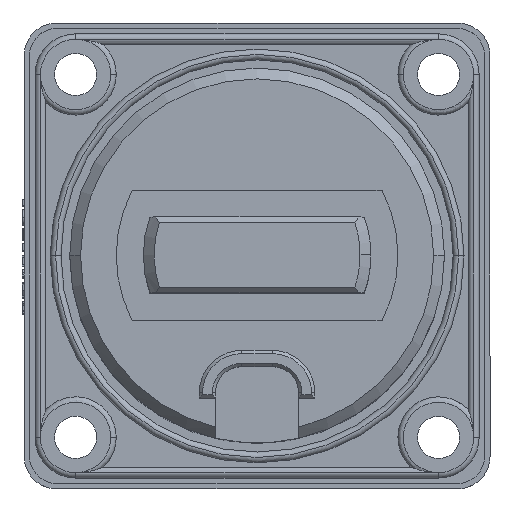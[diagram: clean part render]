
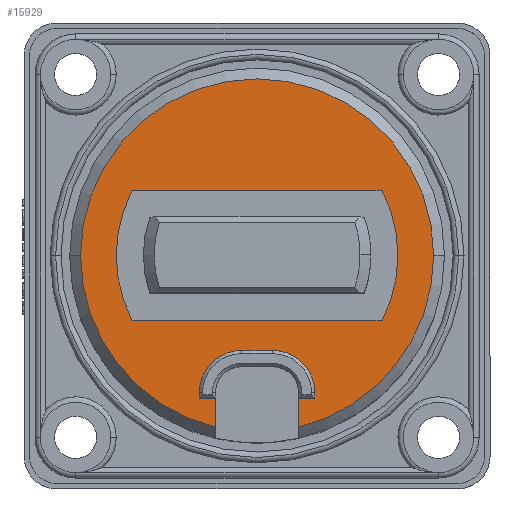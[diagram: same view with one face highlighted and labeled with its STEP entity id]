
A CAD part, top view. The second image highlights one B-rep face of the part: STEP entity #15929.
In plain terms, the highlighted planar face has unit normal (0, 0, 1).
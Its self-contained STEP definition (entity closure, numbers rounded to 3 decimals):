
#74 = ORIENTED_EDGE ( 'NONE', *, *, #11840, .F. ) ;
#340 = DIRECTION ( 'NONE',  ( 0., 0., -1. ) ) ;
#453 = VERTEX_POINT ( 'NONE', #14281 ) ;
#546 = LINE ( 'NONE', #17206, #21306 ) ;
#712 = DIRECTION ( 'NONE',  ( 0., 0., 1. ) ) ;
#738 = CARTESIAN_POINT ( 'NONE',  ( 5.329, -13.166, 27.461 ) ) ;
#793 = DIRECTION ( 'NONE',  ( -1., 0., 0. ) ) ;
#998 = VECTOR ( 'NONE', #22089, 1000. ) ;
#1167 = DIRECTION ( 'NONE',  ( 1., 0., 0. ) ) ;
#1493 = EDGE_CURVE ( 'NONE', #13582, #2811, #10826, .T. ) ;
#1884 = VECTOR ( 'NONE', #7913, 1000. ) ;
#1892 = AXIS2_PLACEMENT_3D ( 'NONE', #10469, #24474, #12488 ) ;
#2310 = AXIS2_PLACEMENT_3D ( 'NONE', #24066, #12051, #26060 ) ;
#2603 = VERTEX_POINT ( 'NONE', #8724 ) ;
#2811 = VERTEX_POINT ( 'NONE', #3848 ) ;
#2825 = VECTOR ( 'NONE', #1167, 1000. ) ;
#2834 = EDGE_CURVE ( 'NONE', #10999, #6312, #16932, .T. ) ;
#2994 = VERTEX_POINT ( 'NONE', #8370 ) ;
#3024 = LINE ( 'NONE', #9141, #18449 ) ;
#3214 = VERTEX_POINT ( 'NONE', #19374 ) ;
#3223 = DIRECTION ( 'NONE',  ( 0., 1., 0. ) ) ;
#3575 = VERTEX_POINT ( 'NONE', #16844 ) ;
#3848 = CARTESIAN_POINT ( 'NONE',  ( 16.3, 0., 27.461 ) ) ;
#4114 = LINE ( 'NONE', #4615, #19479 ) ;
#4615 = CARTESIAN_POINT ( 'NONE',  ( 3.829, -12.666, 27.461 ) ) ;
#4915 = CARTESIAN_POINT ( 'NONE',  ( 3.829, -13.166, 27.461 ) ) ;
#5038 = CARTESIAN_POINT ( 'NONE',  ( 13., 0., 27.461 ) ) ;
#5106 = ORIENTED_EDGE ( 'NONE', *, *, #25606, .F. ) ;
#5317 = CARTESIAN_POINT ( 'NONE',  ( 0., 0., 27.461 ) ) ;
#5332 = DIRECTION ( 'NONE',  ( 0., 0., 1. ) ) ;
#5692 = ORIENTED_EDGE ( 'NONE', *, *, #24542, .F. ) ;
#5876 = CARTESIAN_POINT ( 'NONE',  ( -5.329, -13.166, 27.461 ) ) ;
#5974 = CIRCLE ( 'NONE', #8059, 13. ) ;
#5992 = EDGE_CURVE ( 'NONE', #18427, #10497, #17740, .T. ) ;
#6111 = VECTOR ( 'NONE', #19930, 1000. ) ;
#6312 = VERTEX_POINT ( 'NONE', #5876 ) ;
#6395 = LINE ( 'NONE', #10094, #998 ) ;
#6505 = AXIS2_PLACEMENT_3D ( 'NONE', #24870, #12874, #793 ) ;
#6629 = DIRECTION ( 'NONE',  ( 0., 1., 0. ) ) ;
#6754 = ORIENTED_EDGE ( 'NONE', *, *, #15415, .F. ) ;
#6848 = ORIENTED_EDGE ( 'NONE', *, *, #18255, .F. ) ;
#6881 = CARTESIAN_POINT ( 'NONE',  ( -11.533, -6., 27.461 ) ) ;
#6883 = EDGE_CURVE ( 'NONE', #6312, #453, #8210, .T. ) ;
#7270 = LINE ( 'NONE', #19913, #1884 ) ;
#7359 = DIRECTION ( 'NONE',  ( -1., 0., 0. ) ) ;
#7497 = ORIENTED_EDGE ( 'NONE', *, *, #14616, .F. ) ;
#7565 = VERTEX_POINT ( 'NONE', #15203 ) ;
#7884 = FACE_OUTER_BOUND ( 'NONE', #22217, .T. ) ;
#7913 = DIRECTION ( 'NONE',  ( -1., 0., 0. ) ) ;
#7914 = AXIS2_PLACEMENT_3D ( 'NONE', #12795, #712, #14775 ) ;
#8038 = EDGE_CURVE ( 'NONE', #453, #15716, #3024, .T. ) ;
#8059 = AXIS2_PLACEMENT_3D ( 'NONE', #17363, #5332, #19366 ) ;
#8105 = CARTESIAN_POINT ( 'NONE',  ( -3.829, -15.844, 27.461 ) ) ;
#8210 = LINE ( 'NONE', #23156, #2825 ) ;
#8370 = CARTESIAN_POINT ( 'NONE',  ( -1.429, -8.766, 27.461 ) ) ;
#8610 = EDGE_CURVE ( 'NONE', #3575, #3214, #16791, .T. ) ;
#8621 = CARTESIAN_POINT ( 'NONE',  ( 0., 0., 27.461 ) ) ;
#8724 = CARTESIAN_POINT ( 'NONE',  ( 11.533, -6., 27.461 ) ) ;
#8867 = CARTESIAN_POINT ( 'NONE',  ( -11.533, -6., 27.461 ) ) ;
#9141 = CARTESIAN_POINT ( 'NONE',  ( -3.829, -12.666, 27.461 ) ) ;
#9152 = ORIENTED_EDGE ( 'NONE', *, *, #12416, .T. ) ;
#9227 = EDGE_CURVE ( 'NONE', #13582, #25514, #4114, .T. ) ;
#9719 = CARTESIAN_POINT ( 'NONE',  ( -1.429, -12.666, 27.461 ) ) ;
#9925 = ORIENTED_EDGE ( 'NONE', *, *, #8610, .F. ) ;
#9981 = EDGE_CURVE ( 'NONE', #25514, #11772, #546, .T. ) ;
#10094 = CARTESIAN_POINT ( 'NONE',  ( -11.533, 6., 27.461 ) ) ;
#10469 = CARTESIAN_POINT ( 'NONE',  ( 0., 0., 27.461 ) ) ;
#10497 = VERTEX_POINT ( 'NONE', #16850 ) ;
#10606 = ORIENTED_EDGE ( 'NONE', *, *, #1493, .T. ) ;
#10647 = DIRECTION ( 'NONE',  ( 1., 0., 0. ) ) ;
#10748 = LINE ( 'NONE', #15279, #15419 ) ;
#10762 = VECTOR ( 'NONE', #12821, 1000. ) ;
#10826 = CIRCLE ( 'NONE', #20851, 16.3 ) ;
#10999 = VERTEX_POINT ( 'NONE', #17164 ) ;
#11191 = VERTEX_POINT ( 'NONE', #6881 ) ;
#11198 = CARTESIAN_POINT ( 'NONE',  ( -16.3, 0., 27.461 ) ) ;
#11729 = DIRECTION ( 'NONE',  ( 1., 0., 0. ) ) ;
#11772 = VERTEX_POINT ( 'NONE', #738 ) ;
#11840 = EDGE_CURVE ( 'NONE', #11191, #2603, #22047, .T. ) ;
#12051 = DIRECTION ( 'NONE',  ( 0., 0., 1. ) ) ;
#12416 = EDGE_CURVE ( 'NONE', #23759, #15716, #18163, .T. ) ;
#12420 = CARTESIAN_POINT ( 'NONE',  ( 0., 7.45, 27.461 ) ) ;
#12488 = DIRECTION ( 'NONE',  ( 1., 0., 0. ) ) ;
#12505 = DIRECTION ( 'NONE',  ( 1., 0., 0. ) ) ;
#12795 = CARTESIAN_POINT ( 'NONE',  ( 1.429, -12.666, 27.461 ) ) ;
#12821 = DIRECTION ( 'NONE',  ( 1., 0., 0. ) ) ;
#12859 = AXIS2_PLACEMENT_3D ( 'NONE', #8621, #22634, #10647 ) ;
#12874 = DIRECTION ( 'NONE',  ( 0., 0., 1. ) ) ;
#12930 = ORIENTED_EDGE ( 'NONE', *, *, #16191, .T. ) ;
#12992 = ORIENTED_EDGE ( 'NONE', *, *, #9227, .F. ) ;
#13214 = FACE_BOUND ( 'NONE', #22481, .T. ) ;
#13582 = VERTEX_POINT ( 'NONE', #25902 ) ;
#13851 = CARTESIAN_POINT ( 'NONE',  ( -5.329, -12.666, 27.461 ) ) ;
#13913 = CIRCLE ( 'NONE', #12859, 13. ) ;
#14281 = CARTESIAN_POINT ( 'NONE',  ( -3.829, -13.166, 27.461 ) ) ;
#14415 = DIRECTION ( 'NONE',  ( -1., 0., 0. ) ) ;
#14616 = EDGE_CURVE ( 'NONE', #3214, #2994, #7270, .T. ) ;
#14775 = DIRECTION ( 'NONE',  ( 1., 0., 0. ) ) ;
#14969 = ORIENTED_EDGE ( 'NONE', *, *, #9981, .F. ) ;
#15203 = CARTESIAN_POINT ( 'NONE',  ( -11.533, 6., 27.461 ) ) ;
#15245 = ORIENTED_EDGE ( 'NONE', *, *, #8038, .F. ) ;
#15279 = CARTESIAN_POINT ( 'NONE',  ( 5.329, -13.166, 27.461 ) ) ;
#15415 = EDGE_CURVE ( 'NONE', #11772, #3575, #10748, .T. ) ;
#15419 = VECTOR ( 'NONE', #3223, 1000. ) ;
#15716 = VERTEX_POINT ( 'NONE', #8105 ) ;
#15929 = ADVANCED_FACE ( 'NONE', ( #13214, #7884 ), #16339, .F. ) ;
#16191 = EDGE_CURVE ( 'NONE', #2811, #23759, #17249, .T. ) ;
#16339 = PLANE ( 'NONE',  #23708 ) ;
#16791 = CIRCLE ( 'NONE', #7914, 3.9 ) ;
#16844 = CARTESIAN_POINT ( 'NONE',  ( 5.329, -12.666, 27.461 ) ) ;
#16850 = CARTESIAN_POINT ( 'NONE',  ( 11.533, 6., 27.461 ) ) ;
#16932 = LINE ( 'NONE', #13851, #6111 ) ;
#17164 = CARTESIAN_POINT ( 'NONE',  ( -5.329, -12.666, 27.461 ) ) ;
#17206 = CARTESIAN_POINT ( 'NONE',  ( 3.829, -13.166, 27.461 ) ) ;
#17249 = CIRCLE ( 'NONE', #2310, 16.3 ) ;
#17363 = CARTESIAN_POINT ( 'NONE',  ( 0., 0., 27.461 ) ) ;
#17618 = ORIENTED_EDGE ( 'NONE', *, *, #5992, .F. ) ;
#17740 = CIRCLE ( 'NONE', #1892, 13. ) ;
#18163 = CIRCLE ( 'NONE', #6505, 16.3 ) ;
#18167 = ORIENTED_EDGE ( 'NONE', *, *, #2834, .F. ) ;
#18255 = EDGE_CURVE ( 'NONE', #10497, #7565, #6395, .T. ) ;
#18427 = VERTEX_POINT ( 'NONE', #5038 ) ;
#18449 = VECTOR ( 'NONE', #25179, 1000. ) ;
#19027 = ORIENTED_EDGE ( 'NONE', *, *, #22206, .F. ) ;
#19346 = DIRECTION ( 'NONE',  ( 0., 0., 1. ) ) ;
#19366 = DIRECTION ( 'NONE',  ( 1., 0., 0. ) ) ;
#19374 = CARTESIAN_POINT ( 'NONE',  ( 1.429, -8.766, 27.461 ) ) ;
#19403 = ORIENTED_EDGE ( 'NONE', *, *, #6883, .F. ) ;
#19479 = VECTOR ( 'NONE', #6629, 1000. ) ;
#19913 = CARTESIAN_POINT ( 'NONE',  ( 1.429, -8.766, 27.461 ) ) ;
#19930 = DIRECTION ( 'NONE',  ( 0., -1., 0. ) ) ;
#20851 = AXIS2_PLACEMENT_3D ( 'NONE', #5317, #19346, #7359 ) ;
#21306 = VECTOR ( 'NONE', #12505, 1000. ) ;
#22047 = LINE ( 'NONE', #8867, #10762 ) ;
#22089 = DIRECTION ( 'NONE',  ( -1., 0., 0. ) ) ;
#22206 = EDGE_CURVE ( 'NONE', #2994, #10999, #22281, .T. ) ;
#22217 = EDGE_LOOP ( 'NONE', ( #19403, #18167, #19027, #7497, #9925, #6754, #14969, #12992, #10606, #12930, #9152, #15245 ) ) ;
#22281 = CIRCLE ( 'NONE', #25822, 3.9 ) ;
#22481 = EDGE_LOOP ( 'NONE', ( #6848, #17618, #5692, #74, #5106 ) ) ;
#22634 = DIRECTION ( 'NONE',  ( 0., 0., 1. ) ) ;
#23156 = CARTESIAN_POINT ( 'NONE',  ( -5.329, -13.166, 27.461 ) ) ;
#23708 = AXIS2_PLACEMENT_3D ( 'NONE', #12420, #340, #14415 ) ;
#23744 = DIRECTION ( 'NONE',  ( 0., 0., 1. ) ) ;
#23759 = VERTEX_POINT ( 'NONE', #11198 ) ;
#24066 = CARTESIAN_POINT ( 'NONE',  ( 0., 0., 27.461 ) ) ;
#24474 = DIRECTION ( 'NONE',  ( 0., 0., 1. ) ) ;
#24542 = EDGE_CURVE ( 'NONE', #2603, #18427, #13913, .T. ) ;
#24870 = CARTESIAN_POINT ( 'NONE',  ( 0., 0., 27.461 ) ) ;
#25179 = DIRECTION ( 'NONE',  ( 0., -1., 0. ) ) ;
#25514 = VERTEX_POINT ( 'NONE', #4915 ) ;
#25606 = EDGE_CURVE ( 'NONE', #7565, #11191, #5974, .T. ) ;
#25822 = AXIS2_PLACEMENT_3D ( 'NONE', #9719, #23744, #11729 ) ;
#25902 = CARTESIAN_POINT ( 'NONE',  ( 3.829, -15.844, 27.461 ) ) ;
#26060 = DIRECTION ( 'NONE',  ( -1., 0., 0. ) ) ;
